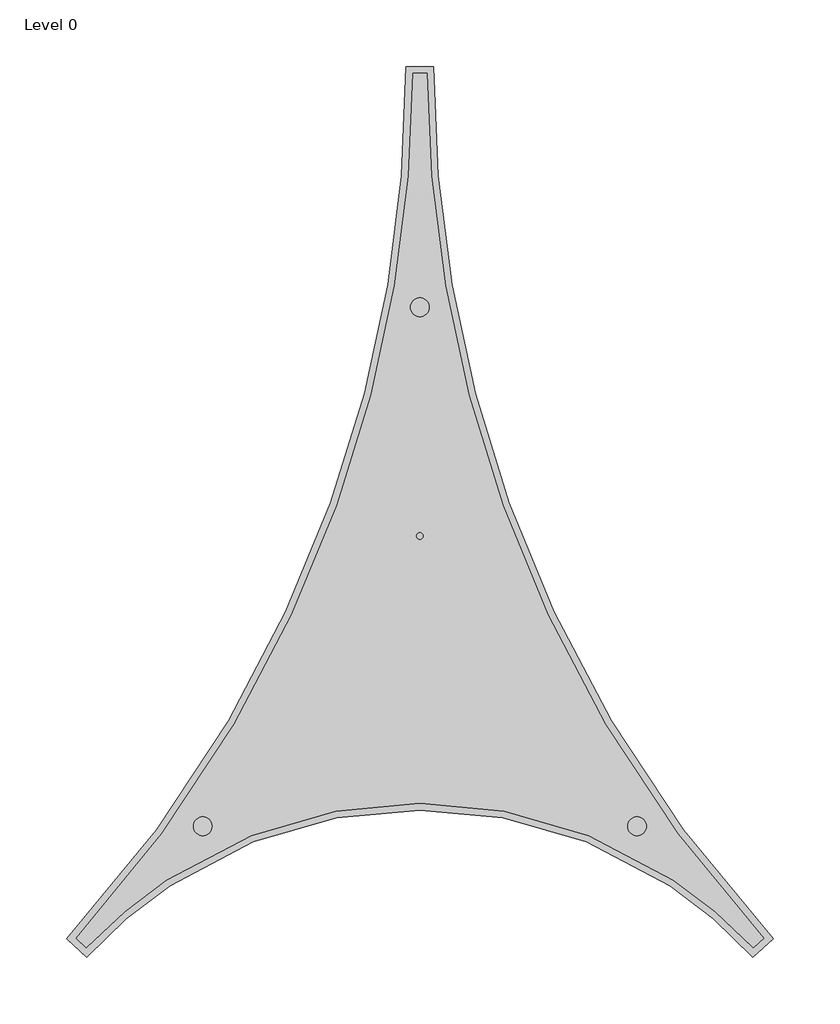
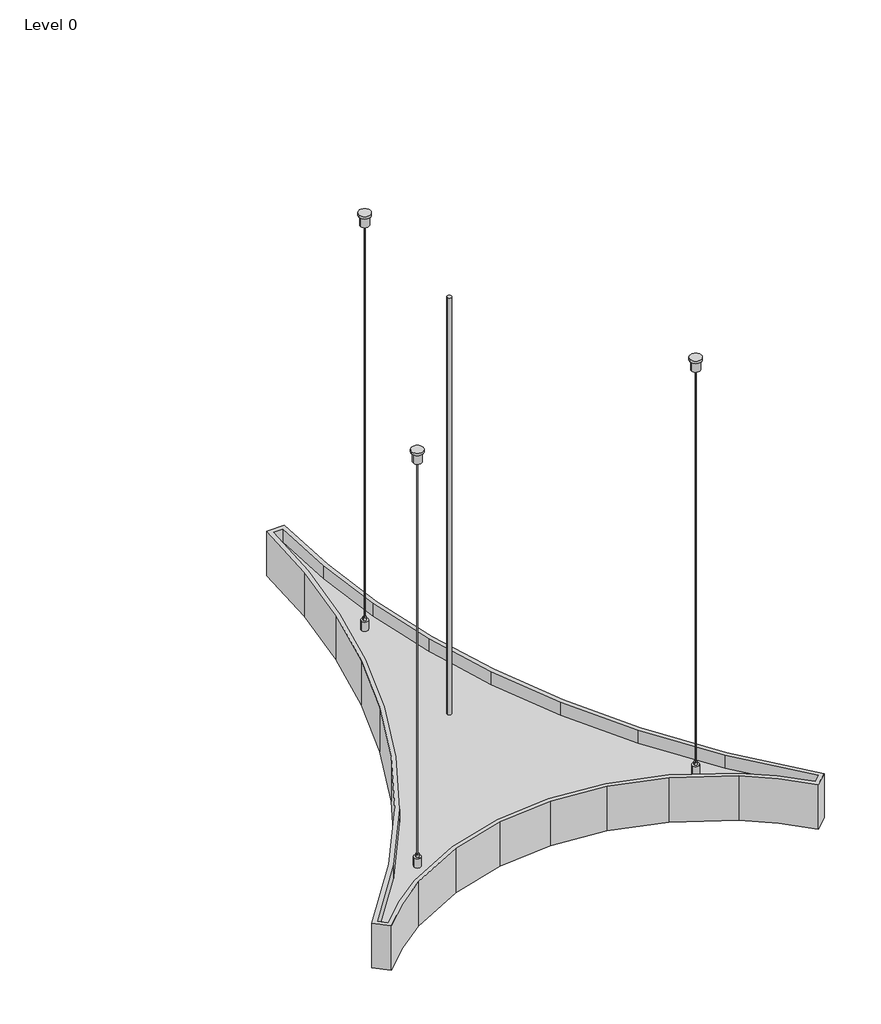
# One storey: 1 light fixture.
"""IFC4 building model written with IfcOpenShell, lengths in millimetres."""

from ifc_helpers import new_model, si_unit, origin, place, context, project, spatial, transform, mapped, element, save
from components import silver_anodized_3000_k_1530_lm_bc2a5f50

model = new_model("IFC4")

# Units and contexts
model_context = context("Model", 3, world=origin())
ifc_project = project(units=[si_unit("LENGTHUNIT", "METRE", prefix="MILLI")], contexts=[model_context])

# Site, building, storey
site = spatial("IfcSite", under=ifc_project)
building = spatial("IfcBuilding", under=site)
storey = spatial("IfcBuildingStorey", under=building, Name="Level 0", Elevation=0.0)

# Light fixture
placement = place(None, origin())
silver_anodized_3000_k_1530_lm_shape = silver_anodized_3000_k_1530_lm_bc2a5f50(model_context)
element("IfcLightFixture", 1, ObjectType="KLUŚ - MIFOR - MI-SAIL-S : Silver anodized - 3000 K - 1530 lm", at=placement, inside=storey, context=model_context, shape_type="MappedRepresentation", body=[
    mapped(silver_anodized_3000_k_1530_lm_shape, transform((0.0, 0.0, 555.0), x_axis=(1.0, 0.0, 0.0), y_axis=(0.0, -1.0, 0.0), z_axis=(0.0, 0.0, -1.0))),
])

save(model, "model.ifc")
